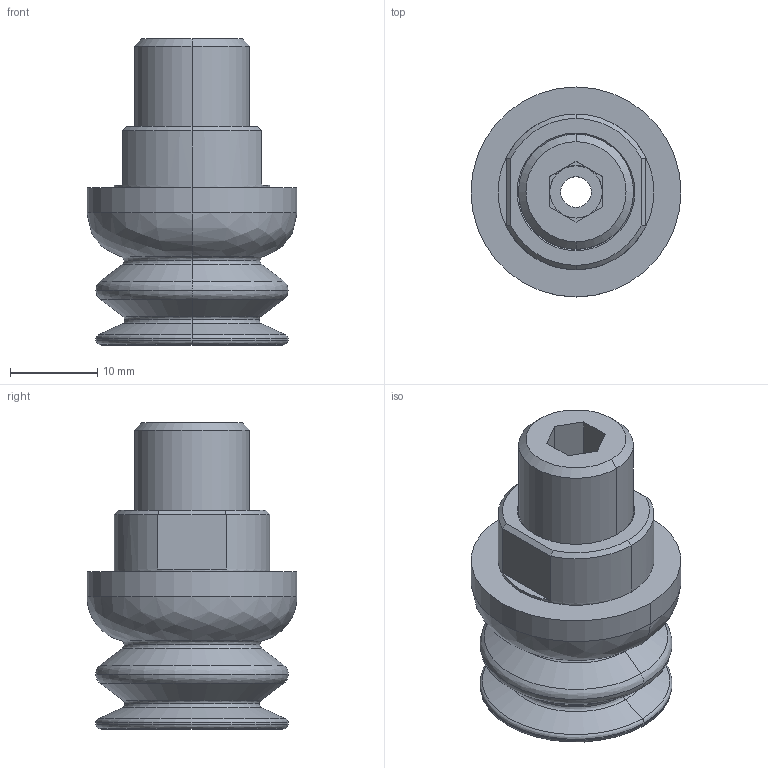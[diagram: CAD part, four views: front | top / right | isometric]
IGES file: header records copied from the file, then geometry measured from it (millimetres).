
Start section: 3D InterOp IGES (Version 26 1 0), Spatial Corp. Copyright (c) 1999-2007.
Global section: file name: schmalz_10_01_06_01653_5wtgpvb7p3ycobucmut1wqukb.igs; native system: Spatial Corp.; preprocessor: 3D InterOp ACIS/IGES; author: TraceParts; organization: TraceParts S.A.; date: 20180627.062812; units: millimetre
Bounding box: 24 x 24 x 35 mm (x, y, z)
Surface area: 4182.9 mm2 (no closed solid volume)
Topology: 0 solids, 0 shells, 86 faces, 364 edges, 364 vertices
Faces by surface type: revolution 60, extrusion 26
